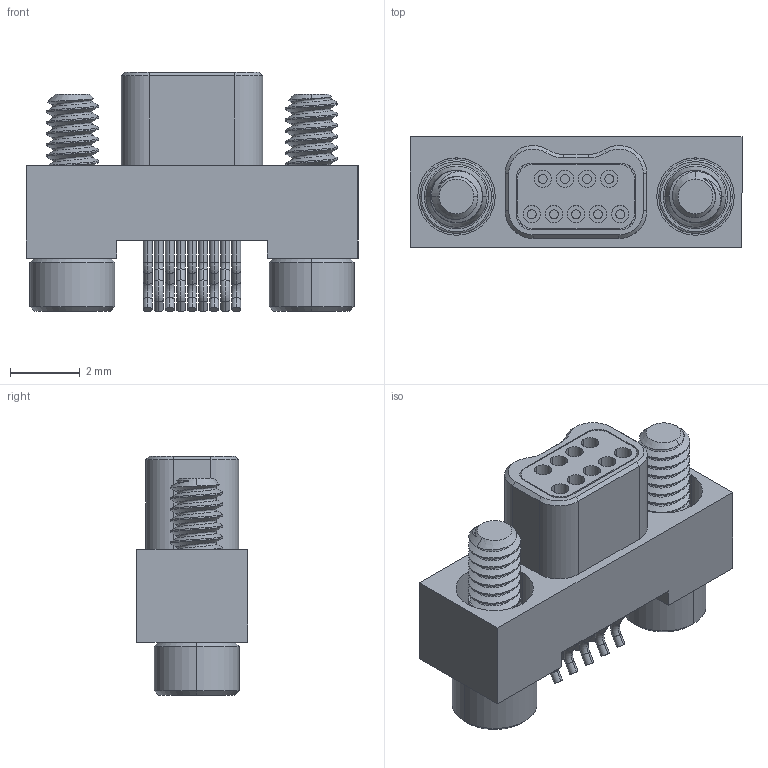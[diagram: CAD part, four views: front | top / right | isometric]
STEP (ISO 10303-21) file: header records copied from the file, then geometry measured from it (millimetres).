
FILE_DESCRIPTION (( 'STEP AP214' ), '1' );
FILE_NAME ('A28300-009 REV H.STEP', '2015-11-04T16:32:43', ( '' ), ( '' ), 'SwSTEP 2.0', 'SolidWorks 2015', '' );
FILE_SCHEMA (( 'AUTOMOTIVE_DESIGN' ));
Length unit declared in the file: inch
Products named in the file (1): A28300-009
Bounding box: 9.53 x 3.19 x 6.87 mm (x, y, z)
Volume: 102.9 mm3; surface area: 449 mm2
Topology: 1 solids, 1 shells, 442 faces, 1022 edges, 642 vertices
Faces by surface type: cylinder 180, plane 150, torus 52, cone 38, bspline 22
Entity records: 15726 total; most frequent: CARTESIAN_POINT 5657, DIRECTION 2158, ORIENTED_EDGE 2044, EDGE_CURVE 1022, AXIS2_PLACEMENT_3D 841, VERTEX_POINT 642, EDGE_LOOP 502, LINE 476
